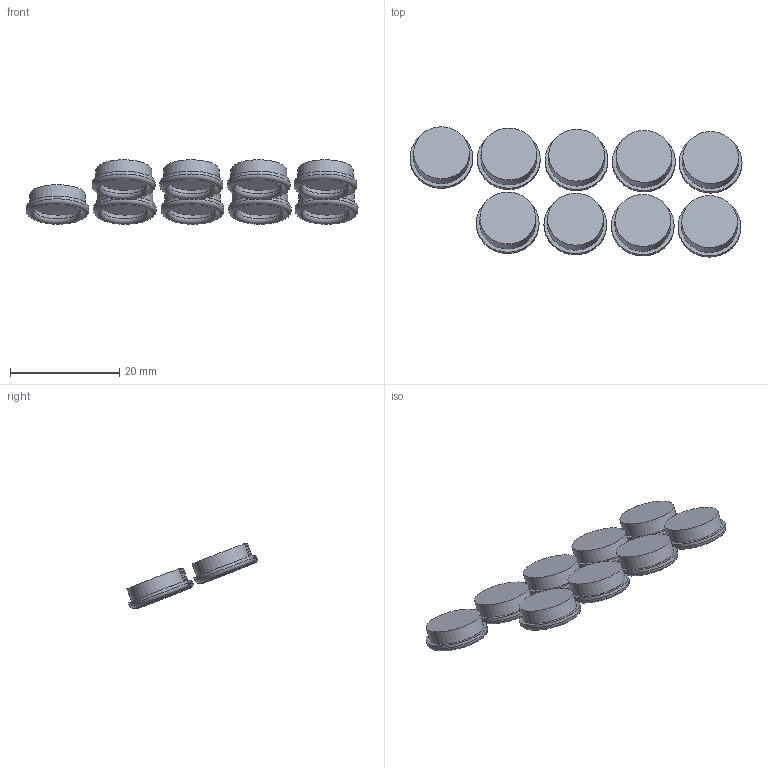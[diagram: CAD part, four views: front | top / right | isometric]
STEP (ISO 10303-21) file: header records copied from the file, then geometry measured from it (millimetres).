
FILE_DESCRIPTION(/* description */ ('','CAx-IF Rec.Pracs.---Representation and Presentation of Product Manufacturing Information (PMI)---4.0---2014-10-13'),/* implementation_level */ '2;1');
FILE_NAME(/* name */ '20vosperportholes.step',/* time_stamp */ '2025-03-23T15:17:23+11:00',/* author */ (''),/* organization */ (''),/* preprocessor_version */ 'ST-DEVELOPER v20',/* originating_system */ 'Autodesk Translation Framework v13.20.0.188',/* authorisation */ '');
FILE_SCHEMA (('AP242_MANAGED_MODEL_BASED_3D_ENGINEERING_MIM_LF { 1 0 10303 442 1 1 4 }'));
Length unit declared in the file: millimetre
Products named in the file (1): 20scaleVosperDeckBits
Bounding box: 60.76 x 23.86 x 11.79 mm (x, y, z)
Volume: 2234.3 mm3; surface area: 3177.2 mm2
Topology: 9 solids, 9 shells, 63 faces, 99 edges, 63 vertices
Faces by surface type: cylinder 27, plane 27, torus 9
Full cylindrical faces by diameter (mm): 8.5 x9, 10.2 x9, 11.5 x9
Entity records: 1467 total; most frequent: DIRECTION 299, CARTESIAN_POINT 226, ORIENTED_EDGE 198, AXIS2_PLACEMENT_3D 136, EDGE_CURVE 99, EDGE_LOOP 72, CIRCLE 72, FACE_OUTER_BOUND 63
